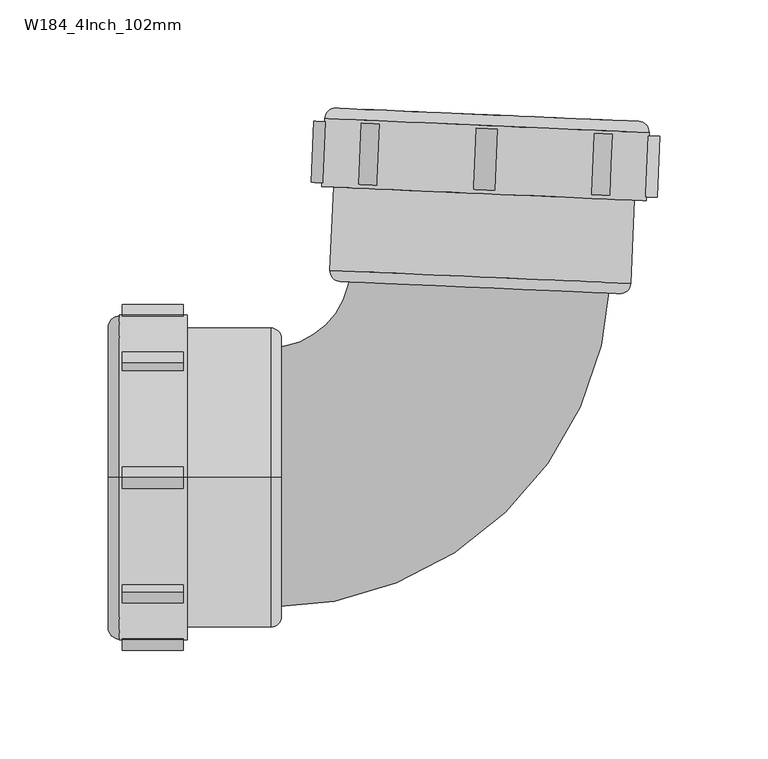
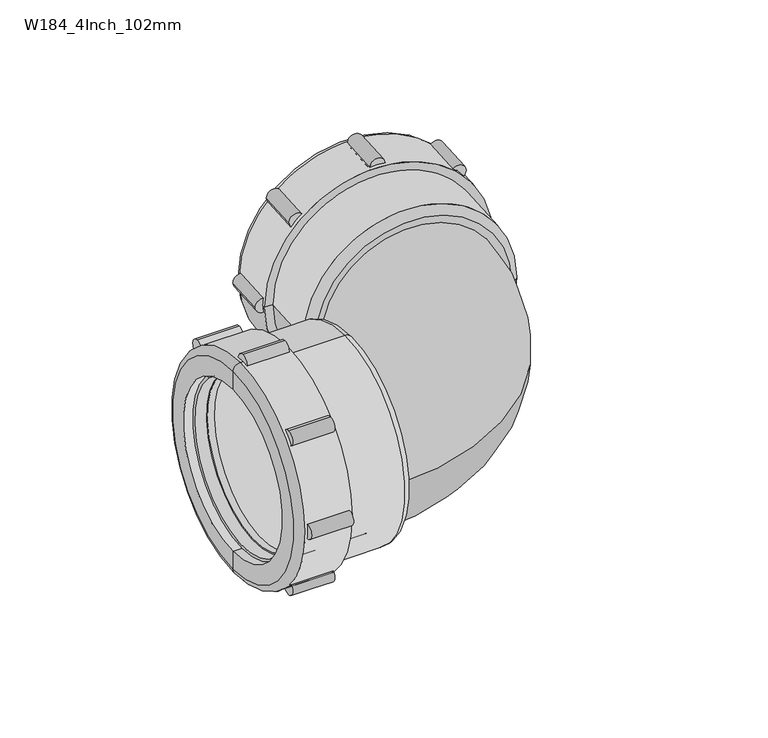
"""IFC4 building model written with IfcOpenShell, lengths in millimetres: pipe fitting geometry, Durapipe_PipeFitting_VulcatheneMechanical_92.5SweepBend_W18 : W184_4Inch_102mm."""

from ifc_helpers import new_model, si_unit, point, frame, frame_2d, origin, place, context, project, spatial, polyline, circle_curve, ellipse_curve, trimmed, segment, composite_curve, outline, extrude, source, transform, mapped, element, save
from ifc_brep_helpers import plane_surface, cylinder_surface, revolved_surface, advanced_brep


def w184_4inch_102mm_223b9221(model_context):
    return source(origin(), model_context, "Body", "SolidModel", [
        advanced_brep(
        [(-38.3071355, 163.3580885, 45.3962554), (52.3989608, 159.3977748, -45.3962554), (46.3942738, 159.6599451, -39.3858477), (-32.3024485, 163.0959182, 39.3858477), (-35.8671561, 141.4307882, 42.0021428), (48.0571761, 137.7665727, -42.0021428), (-37.4767114, 104.5659088, 42.0021428), (46.4476207, 100.9016933, -42.0021428), (-35.8519138, 104.4949686, 40.3757972), (44.822823, 100.9726335, -40.3757972), (-33.845422, 150.4511868, 40.3757972), (46.8293148, 146.9288517, -40.3757972), (-32.361911, 150.3864153, 38.890873), (45.3458039, 146.9936232, -38.890873), (-32.6601274, 154.9037228, 39.3858477), (46.0365948, 151.4677497, -39.3858477), (45.5420912, 151.4893402, -38.890873), (-32.1656238, 154.8821323, 38.890873)],
        [
            (0, 1, circle_curve(frame((7.0459127, 161.3779317, 0.0), z_axis=(0.043619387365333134, 0.9990482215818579, 0.0), x_axis=(0.7064337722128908, -0.030843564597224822, -0.7071067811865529)), 64.2)),
            (1, 2),
            (2, 3, circle_curve(frame((7.0459127, 161.3779317, 0.0), z_axis=(-0.043619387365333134, -0.9990482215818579, 0.0), x_axis=(0.7064337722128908, -0.030843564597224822, -0.7071067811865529)), 55.7)),
            (3, 0),
            (1, 0, circle_curve(frame((7.0459127, 161.3779317, 0.0), z_axis=(0.043619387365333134, 0.9990482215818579, 0.0), x_axis=(0.7064337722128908, -0.030843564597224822, -0.7071067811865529)), 64.2)),
            (3, 2, circle_curve(frame((7.0459127, 161.3779317, 0.0), z_axis=(-0.043619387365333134, -0.9990482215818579, 0.0), x_axis=(0.7064337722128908, -0.030843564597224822, -0.7071067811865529)), 55.7)),
            (0, 4),
            (4, 5, circle_curve(frame((6.09501, 139.5986805, 0.0), z_axis=(0.043619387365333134, 0.9990482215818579, 0.0), x_axis=(0.7064337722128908, -0.030843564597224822, -0.7071067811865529)), 59.4)),
            (5, 1),
            (5, 4, circle_curve(frame((6.09501, 139.5986805, 0.0), z_axis=(0.043619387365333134, 0.9990482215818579, 0.0), x_axis=(0.7064337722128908, -0.030843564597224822, -0.7071067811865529)), 59.4)),
            (6, 7, circle_curve(frame((4.4854546, 102.7338011, 0.0), z_axis=(0.043619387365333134, 0.9990482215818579, 0.0), x_axis=(0.7064337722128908, -0.030843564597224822, -0.7071067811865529)), 59.4)),
            (7, 5),
            (4, 6),
            (7, 6, circle_curve(frame((4.4854546, 102.7338011, 0.0), z_axis=(0.043619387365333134, 0.9990482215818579, 0.0), x_axis=(0.7064337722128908, -0.030843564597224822, -0.7071067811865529)), 59.4)),
            (6, 8),
            (8, 9, circle_curve(frame((4.4854546, 102.7338011, 0.0), z_axis=(0.043619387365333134, 0.9990482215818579, 0.0), x_axis=(0.7064337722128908, -0.030843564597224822, -0.7071067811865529)), 57.1)),
            (9, 7),
            (9, 8, circle_curve(frame((4.4854546, 102.7338011, 0.0), z_axis=(0.043619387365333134, 0.9990482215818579, 0.0), x_axis=(0.7064337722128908, -0.030843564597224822, -0.7071067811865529)), 57.1)),
            (8, 10),
            (10, 11, circle_curve(frame((6.4919464, 148.6900193, 0.0), z_axis=(0.043619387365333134, 0.9990482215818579, 0.0), x_axis=(0.7064337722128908, -0.030843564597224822, -0.7071067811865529)), 57.1)),
            (11, 9),
            (11, 10, circle_curve(frame((6.4919464, 148.6900193, 0.0), z_axis=(0.043619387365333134, 0.9990482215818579, 0.0), x_axis=(0.7064337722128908, -0.030843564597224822, -0.7071067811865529)), 57.1)),
            (10, 12),
            (12, 13, circle_curve(frame((6.4919464, 148.6900193, 0.0), z_axis=(0.043619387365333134, 0.9990482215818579, 0.0), x_axis=(0.7064337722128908, -0.030843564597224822, -0.7071067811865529)), 55.0)),
            (13, 11),
            (13, 12, circle_curve(frame((6.4919464, 148.6900193, 0.0), z_axis=(0.043619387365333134, 0.9990482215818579, 0.0), x_axis=(0.7064337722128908, -0.030843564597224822, -0.7071067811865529)), 55.0)),
            (14, 15, circle_curve(frame((6.6882337, 153.1857363, 0.0), z_axis=(0.043619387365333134, 0.9990482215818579, 0.0), x_axis=(0.7064337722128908, -0.030843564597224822, -0.7071067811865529)), 55.7)),
            (15, 16),
            (16, 17, circle_curve(frame((6.6882337, 153.1857363, 0.0), z_axis=(-0.043619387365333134, -0.9990482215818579, 0.0), x_axis=(0.7064337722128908, -0.030843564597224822, -0.7071067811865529)), 55.0)),
            (17, 14),
            (15, 14, circle_curve(frame((6.6882337, 153.1857363, 0.0), z_axis=(0.043619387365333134, 0.9990482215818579, 0.0), x_axis=(0.7064337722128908, -0.030843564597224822, -0.7071067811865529)), 55.7)),
            (17, 16, circle_curve(frame((6.6882337, 153.1857363, 0.0), z_axis=(-0.043619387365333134, -0.9990482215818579, 0.0), x_axis=(0.7064337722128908, -0.030843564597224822, -0.7071067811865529)), 55.0)),
            (2, 15),
            (14, 3),
            (12, 17),
            (16, 13),
        ],
        [
            plane_surface(frame((7.0459127, 161.3779317, 0.0), z_axis=(0.043619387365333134, 0.9990482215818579, 0.0), x_axis=(0.7064337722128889, -0.03084356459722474, -0.707106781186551))),
            revolved_surface(polyline([(52.3989608, 159.3977748, -45.3962554), (48.0571761, 137.7665727, -42.0021428)]), (7.2640096, 166.3731728, 0.0), (-0.04361938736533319, -0.9990482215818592, 0.0)),
            cylinder_surface(frame((4.3951339, 100.6651162, 0.0), z_axis=(-0.04361938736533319, -0.9990482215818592, 0.0), x_axis=(0.7064337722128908, -0.030843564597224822, -0.7071067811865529)), 59.4),
            plane_surface(frame((4.4854546, 102.7338011, 0.0), z_axis=(-0.043619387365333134, -0.9990482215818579, 0.0), x_axis=(0.7064337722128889, -0.03084356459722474, -0.707106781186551))),
            revolved_surface(polyline([(44.82282301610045, 100.97263349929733, -40.37579720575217), (46.82931483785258, 146.92885175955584, -40.37579720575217)]), (4.3330925, 99.2441347, 0.0), (-0.04361938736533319, -0.9990482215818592, 0.0)),
            plane_surface(frame((6.4919464, 148.6900193, 0.0), z_axis=(-0.043619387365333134, -0.9990482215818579, 0.0), x_axis=(0.7064337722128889, -0.03084356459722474, -0.707106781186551))),
            plane_surface(frame((6.6882337, 153.1857363, 0.0), z_axis=(0.043619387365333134, 0.9990482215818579, 0.0), x_axis=(0.7064337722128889, -0.03084356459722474, -0.707106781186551))),
            revolved_surface(polyline([(46.03659479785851, 151.46774970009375, -39.385847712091), (46.394273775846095, 159.65994515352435, -39.385847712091)]), (7.2640096, 166.3731728, 0.0), (-0.04361938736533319, -0.9990482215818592, 0.0)),
            revolved_surface(polyline([(45.34580389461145, 146.9936231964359, -38.89087296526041), (45.542091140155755, 151.48934024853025, -38.89087296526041)]), (7.114229, 162.9426335, 0.0), (-0.04361938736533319, -0.9990482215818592, 0.0)),
        ],
        [
            (0, [[1, 2, 3, 4]]),
            (0, [[-2, 5, -4, 6]]),
            (1, [[-1, 7, 8, 9]]),
            (1, [[-5, -9, 10, -7]]),
            (2, [[11, 12, -8, 13]]),
            (2, [[-12, 14, -13, -10]]),
            (3, [[-11, 15, 16, 17]]),
            (3, [[-14, -17, 18, -15]]),
            (4, [[19, 20, 21, -16]]),
            (4, [[-19, -18, -21, 22]]),
            (5, [[-20, 23, 24, 25]]),
            (5, [[-22, -25, 26, -23]]),
            (6, [[27, 28, 29, 30]]),
            (6, [[31, -30, 32, -28]]),
            (7, [[-3, 33, -27, 34]]),
            (7, [[-6, -34, -31, -33]]),
            (8, [[35, -29, 36, -24]]),
            (8, [[-35, -26, -36, -32]]),
        ],
    ),
        advanced_brep(
        [(-69.2000095, 134.4781294, 0.0), (80.6572238, 127.9352213, 0.0), (82.0312345, 159.4052403, 0.0), (-67.8259988, 165.9481484, 0.0), (-63.7052442, 134.2382228, 0.0), (75.1624586, 128.175128, 0.0), (-62.6126607, 170.7252926, 0.0), (77.2540903, 164.6185784, 0.0), (64.7659875, 165.1638207, 0.0), (-50.1245579, 170.1800503, 0.0), (-58.89127, 164.2568112, 0.0), (72.9830953, 158.4990521, 0.0), (70.012615, 90.4638682, 0.0), (-61.8617502, 96.2216274, 0.0), (-50.3993601, 163.8860465, 0.0), (64.4911854, 158.8698169, 0.0), (-65.3845907, 95.7748663, 0.0), (73.4831121, 89.7117714, 0.0), (-60.6074465, 90.5615282, 0.0), (68.2697741, 84.9346273, 0.0), (3.8311638, 87.7480778, 0.0), (4.0754324, 93.3427478, 0.0)],
        [
            (0, 1, circle_curve(frame((5.7286072, 131.2066754, 0.0), z_axis=(0.0436193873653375, 0.9990482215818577, 0.0), x_axis=(0.9990482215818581, -0.04361938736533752, 0.0)), 75.0)),
            (1, 2),
            (2, 3, circle_curve(frame((7.1026179, 162.6766944, 0.0), z_axis=(-0.0436193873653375, -0.9990482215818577, 0.0), x_axis=(0.9990482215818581, -0.04361938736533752, 0.0)), 75.0)),
            (3, 0),
            (1, 0, circle_curve(frame((5.7286072, 131.2066754, 0.0), z_axis=(0.0436193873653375, 0.9990482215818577, 0.0), x_axis=(0.9990482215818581, -0.04361938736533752, 0.0)), 75.0)),
            (3, 2, circle_curve(frame((7.1026179, 162.6766944, 0.0), z_axis=(-0.0436193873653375, -0.9990482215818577, 0.0), x_axis=(0.9990482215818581, -0.04361938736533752, 0.0)), 75.0)),
            (4, 5, circle_curve(frame((5.7286072, 131.2066754, 0.0), z_axis=(0.0436193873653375, 0.9990482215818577, 0.0), x_axis=(0.9990482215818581, -0.04361938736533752, 0.0)), 69.5)),
            (5, 1),
            (0, 4),
            (5, 4, circle_curve(frame((5.7286072, 131.2066754, 0.0), z_axis=(0.0436193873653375, 0.9990482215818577, 0.0), x_axis=(0.9990482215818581, -0.04361938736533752, 0.0)), 69.5)),
            (6, 7, circle_curve(frame((7.3207148, 167.6719355, 0.0), z_axis=(0.0436193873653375, 0.9990482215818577, 0.0), x_axis=(0.9990482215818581, -0.04361938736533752, 0.0)), 70.0)),
            (7, 8),
            (8, 9, circle_curve(frame((7.3207148, 167.6719355, 0.0), z_axis=(-0.0436193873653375, -0.9990482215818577, 0.0), x_axis=(0.9990482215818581, -0.04361938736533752, 0.0)), 57.5)),
            (9, 6),
            (7, 6, circle_curve(frame((7.3207148, 167.6719355, 0.0), z_axis=(0.0436193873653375, 0.9990482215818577, 0.0), x_axis=(0.9990482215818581, -0.04361938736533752, 0.0)), 70.0)),
            (9, 8, circle_curve(frame((7.3207148, 167.6719355, 0.0), z_axis=(-0.0436193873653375, -0.9990482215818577, 0.0), x_axis=(0.9990482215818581, -0.04361938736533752, 0.0)), 57.5)),
            (2, 7, circle_curve(frame((77.0359934, 159.6233373, 0.0), z_axis=(0.0, 0.0, 1.0000000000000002), x_axis=(0.043619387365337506, 0.9990482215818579, 0.0)), 5.0)),
            (6, 3, circle_curve(frame((-62.8307576, 165.7300515, 0.0), z_axis=(0.0, 0.0, 1.0000000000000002), x_axis=(0.043619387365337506, 0.9990482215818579, 0.0)), 5.0)),
            (10, 11, circle_curve(frame((7.0459127, 161.3779317, 0.0), z_axis=(0.0436193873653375, 0.9990482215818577, 0.0), x_axis=(0.9990482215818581, -0.04361938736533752, 0.0)), 66.0)),
            (11, 12),
            (12, 13, circle_curve(frame((4.0754324, 93.3427478, 0.0), z_axis=(-0.0436193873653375, -0.9990482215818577, 0.0), x_axis=(0.9990482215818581, -0.04361938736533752, 0.0)), 66.0)),
            (13, 10),
            (11, 10, circle_curve(frame((7.0459127, 161.3779317, 0.0), z_axis=(0.0436193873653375, 0.9990482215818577, 0.0), x_axis=(0.9990482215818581, -0.04361938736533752, 0.0)), 66.0)),
            (13, 12, circle_curve(frame((4.0754324, 93.3427478, 0.0), z_axis=(-0.0436193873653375, -0.9990482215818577, 0.0), x_axis=(0.9990482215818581, -0.04361938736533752, 0.0)), 66.0)),
            (14, 15, circle_curve(frame((7.0459127, 161.3779317, 0.0), z_axis=(0.0436193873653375, 0.9990482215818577, 0.0), x_axis=(0.9990482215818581, -0.04361938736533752, 0.0)), 57.5)),
            (15, 11),
            (10, 14),
            (15, 14, circle_curve(frame((7.0459127, 161.3779317, 0.0), z_axis=(0.0436193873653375, 0.9990482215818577, 0.0), x_axis=(0.9990482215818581, -0.04361938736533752, 0.0)), 57.5)),
            (8, 15),
            (14, 9),
            (16, 17, circle_curve(frame((4.0492607, 92.7433189, 0.0), z_axis=(0.0436193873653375, 0.9990482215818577, 0.0), x_axis=(0.9990482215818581, -0.04361938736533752, 0.0)), 69.5)),
            (17, 5),
            (4, 16),
            (17, 16, circle_curve(frame((4.0492607, 92.7433189, 0.0), z_axis=(0.0436193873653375, 0.9990482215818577, 0.0), x_axis=(0.9990482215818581, -0.04361938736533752, 0.0)), 69.5)),
            (18, 19, circle_curve(frame((3.8311638, 87.7480778, 0.0), z_axis=(0.0436193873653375, 0.9990482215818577, 0.0), x_axis=(0.9990482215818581, -0.04361938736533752, 0.0)), 64.5)),
            (19, 17, circle_curve(frame((68.487871, 89.9298684, 0.0), z_axis=(0.0, 0.0, 1.0000000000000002), x_axis=(0.043619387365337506, 0.9990482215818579, 0.0)), 5.0)),
            (16, 18, circle_curve(frame((-60.3893495, 95.5567693, 0.0), z_axis=(0.0, 0.0, 1.0000000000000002), x_axis=(0.043619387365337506, 0.9990482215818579, 0.0)), 5.0)),
            (19, 18, circle_curve(frame((3.8311638, 87.7480778, 0.0), z_axis=(0.0436193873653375, 0.9990482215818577, 0.0), x_axis=(0.9990482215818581, -0.04361938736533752, 0.0)), 64.5)),
            (20, 19),
            (18, 20),
            (12, 21),
            (21, 13),
        ],
        [
            cylinder_surface(frame((75.4019339, 1726.9882164, 0.0), z_axis=(-0.043619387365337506, -0.9990482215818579, 0.0), x_axis=(0.9990482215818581, -0.04361938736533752, 0.0)), 75.0),
            plane_surface(frame((5.7286072, 131.2066754, 0.0), z_axis=(-0.0436193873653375, -0.9990482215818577, 0.0), x_axis=(0.9990482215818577, -0.0436193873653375, 0.0))),
            plane_surface(frame((7.3207148, 167.6719355, 0.0), z_axis=(0.0436193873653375, 0.9990482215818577, 0.0), x_axis=(0.9990482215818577, -0.0436193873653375, 0.0))),
            revolved_surface(trimmed(ellipse_curve(frame((77.0359934, 159.6233373, 0.0), z_axis=(0.0, 0.0, -1.0000000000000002), x_axis=(0.043619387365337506, 0.9990482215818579, 0.0)), 5.0, 5.0), [point((77.2540903, 164.6185784, 0.0))], [point((82.0312345, 159.4052403, 0.0))], True, "CARTESIAN"), (75.4019339, 1726.9882164, 0.0), (-0.043619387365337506, -0.9990482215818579, 0.0)),
            revolved_surface(polyline([(70.0126149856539, 90.46386820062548, 0.0), (72.98309526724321, 158.49905213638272, 0.0)]), (75.4019339, 1726.9882164, 0.0), (-0.043619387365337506, -0.9990482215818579, 0.0)),
            plane_surface(frame((7.0459127, 161.3779317, 0.0), z_axis=(-0.0436193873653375, -0.9990482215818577, 0.0), x_axis=(0.9990482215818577, -0.0436193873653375, 0.0))),
            revolved_surface(polyline([(64.49118538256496, 158.8698169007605, 0.0), (64.7659875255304, 165.1638207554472, 0.0)]), (75.4019339, 1726.9882164, 0.0), (-0.043619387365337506, -0.9990482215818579, 0.0)),
            cylinder_surface(frame((75.4019339, 1726.9882164, 0.0), z_axis=(-0.043619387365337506, -0.9990482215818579, 0.0), x_axis=(0.9990482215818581, -0.04361938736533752, 0.0)), 69.5),
            revolved_surface(trimmed(ellipse_curve(frame((68.487871, 89.9298684, 0.0), z_axis=(0.0, 0.0, -1.0000000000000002), x_axis=(0.043619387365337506, 0.9990482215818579, 0.0)), 5.0, 5.0), [point((73.4831121, 89.7117714, 0.0))], [point((68.2697741, 84.9346273, 0.0))], True, "CARTESIAN"), (75.4019339, 1726.9882164, 0.0), (-0.043619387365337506, -0.9990482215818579, 0.0)),
            plane_surface(frame((3.8311638, 87.7480778, 0.0), z_axis=(-0.0436193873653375, -0.9990482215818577, 0.0), x_axis=(0.9990482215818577, -0.0436193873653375, 0.0))),
            plane_surface(frame((4.0754324, 93.3427478, 0.0), z_axis=(0.0436193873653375, 0.9990482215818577, 0.0), x_axis=(0.9990482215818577, -0.0436193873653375, 0.0))),
        ],
        [
            (0, [[1, 2, 3, 4]]),
            (0, [[5, -4, 6, -2]]),
            (1, [[7, 8, -1, 9]]),
            (1, [[10, -9, -5, -8]]),
            (2, [[11, 12, 13, 14]]),
            (2, [[15, -14, 16, -12]]),
            (3, [[-3, 17, -11, 18]]),
            (3, [[-6, -18, -15, -17]]),
            (4, [[19, 20, 21, 22]]),
            (4, [[23, -22, 24, -20]]),
            (5, [[25, 26, -19, 27]]),
            (5, [[28, -27, -23, -26]]),
            (6, [[-13, 29, -25, 30]]),
            (6, [[-16, -30, -28, -29]]),
            (7, [[31, 32, -7, 33]]),
            (7, [[34, -33, -10, -32]]),
            (8, [[35, 36, -31, 37]]),
            (8, [[38, -37, -34, -36]]),
            (9, [[39, -35, 40]]),
            (9, [[-40, -38, -39]]),
            (10, [[-21, 41, 42]]),
            (10, [[-24, -42, -41]]),
        ],
    ),
        extrude(outline(composite_curve([segment(trimmed(circle_curve(frame_2d((0.0, -5.0)), 5.0), [point((0.0, -10.0))], [point((0.0, 0.0))], False, "CARTESIAN"), True, "CONTINUOUS"), segment(trimmed(circle_curve(frame_2d((0.0, -5.0)), 5.0), [point((0.0, 0.0))], [point((0.0, -10.0))], False, "CARTESIAN"), True, "CONTINUOUS")], self_intersect=False)), frame((10.8023632, 132.7868653, -75.0), z_axis=(0.0436193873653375, 0.9990482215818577, 0.0), x_axis=(0.0, 0.0, 1.0)), (0.0, 0.0, 1.0), 28.2),
        extrude(outline(composite_curve([segment(trimmed(circle_curve(frame_2d((21.9669914, 48.0330086)), 5.0), [point((21.9669914, 43.0330086))], [point((21.9669914, 53.0330086))], False, "CARTESIAN"), True, "CONTINUOUS"), segment(trimmed(circle_curve(frame_2d((21.9669914, 48.0330086)), 5.0), [point((21.9669914, 53.0330086))], [point((21.9669914, 43.0330086))], False, "CARTESIAN"), True, "CONTINUOUS")], self_intersect=False)), frame((10.8023632, 132.7868653, -75.0), z_axis=(0.0436193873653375, 0.9990482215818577, 0.0), x_axis=(0.0, 0.0, 1.0)), (0.0, 0.0, 1.0), 28.2),
        extrude(outline(composite_curve([segment(trimmed(circle_curve(frame_2d((75.0, 70.0)), 5.0), [point((75.0, 65.0))], [point((75.0, 75.0))], False, "CARTESIAN"), True, "CONTINUOUS"), segment(trimmed(circle_curve(frame_2d((75.0, 70.0)), 5.0), [point((75.0, 75.0))], [point((75.0, 65.0))], False, "CARTESIAN"), True, "CONTINUOUS")], self_intersect=False)), frame((10.8023632, 132.7868653, -75.0), z_axis=(0.0436193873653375, 0.9990482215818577, 0.0), x_axis=(0.0, 0.0, 1.0)), (0.0, 0.0, 1.0), 28.2),
        extrude(outline(composite_curve([segment(trimmed(circle_curve(frame_2d((128.0330086, 48.0330086)), 5.0), [point((128.0330086, 43.0330086))], [point((128.0330086, 53.0330086))], False, "CARTESIAN"), True, "CONTINUOUS"), segment(trimmed(circle_curve(frame_2d((128.0330086, 48.0330086)), 5.0), [point((128.0330086, 53.0330086))], [point((128.0330086, 43.0330086))], False, "CARTESIAN"), True, "CONTINUOUS")], self_intersect=False)), frame((10.8023632, 132.7868653, -75.0), z_axis=(0.0436193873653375, 0.9990482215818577, 0.0), x_axis=(0.0, 0.0, 1.0)), (0.0, 0.0, 1.0), 28.2),
        extrude(outline(composite_curve([segment(trimmed(circle_curve(frame_2d((150.0, -5.0)), 5.0), [point((150.0, -10.0))], [point((150.0, 0.0))], False, "CARTESIAN"), True, "CONTINUOUS"), segment(trimmed(circle_curve(frame_2d((150.0, -5.0)), 5.0), [point((150.0, 0.0))], [point((150.0, -10.0))], False, "CARTESIAN"), True, "CONTINUOUS")], self_intersect=False)), frame((10.8023632, 132.7868653, -75.0), z_axis=(0.0436193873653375, 0.9990482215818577, 0.0), x_axis=(0.0, 0.0, 1.0)), (0.0, 0.0, 1.0), 28.2),
        extrude(outline(composite_curve([segment(trimmed(circle_curve(frame_2d((128.0330086, -58.0330087)), 5.0), [point((128.0330086, -63.0330087))], [point((128.0330086, -53.0330086))], False, "CARTESIAN"), True, "CONTINUOUS"), segment(trimmed(circle_curve(frame_2d((128.0330086, -58.0330087)), 5.0), [point((128.0330086, -53.0330086))], [point((128.0330086, -63.0330087))], False, "CARTESIAN"), True, "CONTINUOUS")], self_intersect=False)), frame((10.8023632, 132.7868653, -75.0), z_axis=(0.0436193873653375, 0.9990482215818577, 0.0), x_axis=(0.0, 0.0, 1.0)), (0.0, 0.0, 1.0), 28.2),
        extrude(outline(composite_curve([segment(trimmed(circle_curve(frame_2d((75.0, -80.0000001)), 5.0), [point((75.0, -85.0000001))], [point((75.0, -75.0))], False, "CARTESIAN"), True, "CONTINUOUS"), segment(trimmed(circle_curve(frame_2d((75.0, -80.0000001)), 5.0), [point((75.0, -75.0))], [point((75.0, -85.0000001))], False, "CARTESIAN"), True, "CONTINUOUS")], self_intersect=False)), frame((10.8023632, 132.7868653, -75.0), z_axis=(0.0436193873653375, 0.9990482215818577, 0.0), x_axis=(0.0, 0.0, 1.0)), (0.0, 0.0, 1.0), 28.2),
        extrude(outline(composite_curve([segment(trimmed(circle_curve(frame_2d((21.9669914, -58.0330087)), 5.0), [point((21.9669914, -63.0330087))], [point((21.9669914, -53.0330086))], False, "CARTESIAN"), True, "CONTINUOUS"), segment(trimmed(circle_curve(frame_2d((21.9669914, -58.0330087)), 5.0), [point((21.9669914, -53.0330086))], [point((21.9669914, -63.0330087))], False, "CARTESIAN"), True, "CONTINUOUS")], self_intersect=False)), frame((10.8023632, 132.7868653, -75.0), z_axis=(0.0436193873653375, 0.9990482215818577, 0.0), x_axis=(0.0, 0.0, 1.0)), (0.0, 0.0, 1.0), 28.2),
        advanced_brep(
        [(-161.531674, -45.3962554, -45.3962554), (-161.531674, 45.3962554, 45.3962554), (-161.531674, 39.3858477, 39.3858477), (-161.531674, -39.3858477, -39.3858477), (-139.731674, -42.0021428, -42.0021428), (-139.731674, 42.0021428, 42.0021428), (-102.831674, -42.0021428, -42.0021428), (-102.831674, 42.0021428, 42.0021428), (-102.831674, -40.3757972, -40.3757972), (-102.831674, 40.3757972, 40.3757972), (-148.831674, -40.3757972, -40.3757972), (-148.831674, 40.3757972, 40.3757972), (-148.831674, -38.890873, -38.890873), (-148.831674, 38.890873, 38.890873), (-153.331674, -39.3858477, -39.3858477), (-153.331674, 39.3858477, 39.3858477), (-153.331674, 38.890873, 38.890873), (-153.331674, -38.890873, -38.890873)],
        [
            (0, 1, circle_curve(frame((-161.531674, 0.0, 0.0), z_axis=(-1.0, 0.0, 0.0), x_axis=(0.0, 0.7071067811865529, 0.7071067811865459)), 64.2)),
            (1, 2),
            (2, 3, circle_curve(frame((-161.531674, 0.0, 0.0), z_axis=(1.0, 0.0, 0.0), x_axis=(0.0, 0.7071067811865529, 0.7071067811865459)), 55.7)),
            (3, 0),
            (1, 0, circle_curve(frame((-161.531674, 0.0, 0.0), z_axis=(-1.0, 0.0, 0.0), x_axis=(0.0, 0.7071067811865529, 0.7071067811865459)), 64.2)),
            (3, 2, circle_curve(frame((-161.531674, 0.0, 0.0), z_axis=(1.0, 0.0, 0.0), x_axis=(0.0, 0.7071067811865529, 0.7071067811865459)), 55.7)),
            (0, 4),
            (4, 5, circle_curve(frame((-139.731674, 0.0, 0.0), z_axis=(-1.0, 0.0, 0.0), x_axis=(0.0, 0.7071067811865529, 0.7071067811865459)), 59.4)),
            (5, 1),
            (5, 4, circle_curve(frame((-139.731674, 0.0, 0.0), z_axis=(-1.0, 0.0, 0.0), x_axis=(0.0, 0.7071067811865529, 0.7071067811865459)), 59.4)),
            (6, 7, circle_curve(frame((-102.831674, 0.0, 0.0), z_axis=(-1.0, 0.0, 0.0), x_axis=(0.0, 0.7071067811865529, 0.7071067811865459)), 59.4)),
            (7, 5),
            (4, 6),
            (7, 6, circle_curve(frame((-102.831674, 0.0, 0.0), z_axis=(-1.0, 0.0, 0.0), x_axis=(0.0, 0.7071067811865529, 0.7071067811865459)), 59.4)),
            (6, 8),
            (8, 9, circle_curve(frame((-102.831674, 0.0, 0.0), z_axis=(-1.0, 0.0, 0.0), x_axis=(0.0, 0.7071067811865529, 0.7071067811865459)), 57.1)),
            (9, 7),
            (9, 8, circle_curve(frame((-102.831674, 0.0, 0.0), z_axis=(-1.0, 0.0, 0.0), x_axis=(0.0, 0.7071067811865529, 0.7071067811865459)), 57.1)),
            (8, 10),
            (10, 11, circle_curve(frame((-148.831674, 0.0, 0.0), z_axis=(-1.0, 0.0, 0.0), x_axis=(0.0, 0.7071067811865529, 0.7071067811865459)), 57.1)),
            (11, 9),
            (11, 10, circle_curve(frame((-148.831674, 0.0, 0.0), z_axis=(-1.0, 0.0, 0.0), x_axis=(0.0, 0.7071067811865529, 0.7071067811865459)), 57.1)),
            (10, 12),
            (12, 13, circle_curve(frame((-148.831674, 0.0, 0.0), z_axis=(-1.0, 0.0, 0.0), x_axis=(0.0, 0.7071067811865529, 0.7071067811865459)), 55.0)),
            (13, 11),
            (13, 12, circle_curve(frame((-148.831674, 0.0, 0.0), z_axis=(-1.0, 0.0, 0.0), x_axis=(0.0, 0.7071067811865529, 0.7071067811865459)), 55.0)),
            (14, 15, circle_curve(frame((-153.331674, 0.0, 0.0), z_axis=(-1.0, 0.0, 0.0), x_axis=(0.0, 0.7071067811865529, 0.7071067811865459)), 55.7)),
            (15, 16),
            (16, 17, circle_curve(frame((-153.331674, 0.0, 0.0), z_axis=(1.0, 0.0, 0.0), x_axis=(0.0, 0.7071067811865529, 0.7071067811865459)), 55.0)),
            (17, 14),
            (15, 14, circle_curve(frame((-153.331674, 0.0, 0.0), z_axis=(-1.0, 0.0, 0.0), x_axis=(0.0, 0.7071067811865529, 0.7071067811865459)), 55.7)),
            (17, 16, circle_curve(frame((-153.331674, 0.0, 0.0), z_axis=(1.0, 0.0, 0.0), x_axis=(0.0, 0.7071067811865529, 0.7071067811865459)), 55.0)),
            (2, 15),
            (14, 3),
            (12, 17),
            (16, 13),
        ],
        [
            plane_surface(frame((-161.531674, 0.0, 0.0), z_axis=(-1.0, 0.0, 0.0), x_axis=(0.0, 0.707106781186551, 0.707106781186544))),
            revolved_surface(polyline([(-161.531674, 45.3962554, 45.3962554), (-139.731674, 42.0021428, 42.0021428)]), (-166.531674, 0.0, 0.0), (1.0000000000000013, 0.0, 0.0)),
            cylinder_surface(frame((-100.7610183, 0.0, 0.0), z_axis=(1.0000000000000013, 0.0, 0.0), x_axis=(0.0, 0.7071067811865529, 0.7071067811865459)), 59.4),
            plane_surface(frame((-102.831674, 0.0, 0.0), z_axis=(1.0, 0.0, 0.0), x_axis=(0.0, 0.707106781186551, 0.707106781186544))),
            revolved_surface(polyline([(-102.83167400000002, 40.37579720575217, 40.37579720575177), (-148.83167400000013, 40.37579720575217, 40.37579720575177)]), (-99.3386831, 0.0, 0.0), (1.0000000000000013, 0.0, 0.0)),
            plane_surface(frame((-148.831674, 0.0, 0.0), z_axis=(1.0, 0.0, 0.0), x_axis=(0.0, 0.707106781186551, 0.707106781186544))),
            plane_surface(frame((-153.331674, 0.0, 0.0), z_axis=(-1.0, 0.0, 0.0), x_axis=(0.0, 0.707106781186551, 0.707106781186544))),
            revolved_surface(polyline([(-153.33167399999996, 39.385847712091, 39.38584771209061), (-161.531674, 39.385847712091, 39.38584771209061)]), (-166.531674, 0.0, 0.0), (1.0000000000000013, 0.0, 0.0)),
            revolved_surface(polyline([(-148.83167399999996, 38.89087296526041, 38.89087296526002), (-153.33167399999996, 38.89087296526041, 38.89087296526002)]), (-163.0978665, 0.0, 0.0), (1.0000000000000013, 0.0, 0.0)),
        ],
        [
            (0, [[1, 2, 3, 4]]),
            (0, [[-2, 5, -4, 6]]),
            (1, [[-1, 7, 8, 9]]),
            (1, [[-5, -9, 10, -7]]),
            (2, [[11, 12, -8, 13]]),
            (2, [[-12, 14, -13, -10]]),
            (3, [[-11, 15, 16, 17]]),
            (3, [[-14, -17, 18, -15]]),
            (4, [[19, 20, 21, -16]]),
            (4, [[-19, -18, -21, 22]]),
            (5, [[-20, 23, 24, 25]]),
            (5, [[-22, -25, 26, -23]]),
            (6, [[27, 28, 29, 30]]),
            (6, [[31, -30, 32, -28]]),
            (7, [[-3, 33, -27, 34]]),
            (7, [[-6, -34, -31, -33]]),
            (8, [[35, -29, 36, -24]]),
            (8, [[-35, -26, -36, -32]]),
        ],
    ),
        advanced_brep(
        [(-131.331674, 0.0, -75.0), (-131.331674, 0.0, 75.0), (-162.831674, 0.0, 75.0), (-162.831674, 0.0, -75.0), (-131.331674, 0.0, -69.5), (-131.331674, 0.0, 69.5), (-167.831674, 0.0, -70.0), (-167.831674, 0.0, 70.0), (-167.831674, 0.0, 57.5), (-167.831674, 0.0, -57.5), (-161.531674, 0.0, -66.0), (-161.531674, 0.0, 66.0), (-93.431674, 0.0, 66.0), (-93.431674, 0.0, -66.0), (-161.531674, 0.0, -57.5), (-161.531674, 0.0, 57.5), (-92.831674, 0.0, -69.5), (-92.831674, 0.0, 69.5), (-87.831674, 0.0, -64.5), (-87.831674, 0.0, 64.5), (-87.831674, 0.0, 0.0), (-93.431674, 0.0, 0.0)],
        [
            (0, 1, circle_curve(frame((-131.331674, 0.0, 0.0), z_axis=(-1.0, 0.0, 0.0), x_axis=(0.0, 0.0, 1.0000000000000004)), 75.0)),
            (1, 2),
            (2, 3, circle_curve(frame((-162.831674, 0.0, 0.0), z_axis=(1.0, 0.0, 0.0), x_axis=(0.0, 0.0, 1.0000000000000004)), 75.0)),
            (3, 0),
            (1, 0, circle_curve(frame((-131.331674, 0.0, 0.0), z_axis=(-1.0, 0.0, 0.0), x_axis=(0.0, 0.0, 1.0000000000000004)), 75.0)),
            (3, 2, circle_curve(frame((-162.831674, 0.0, 0.0), z_axis=(1.0, 0.0, 0.0), x_axis=(0.0, 0.0, 1.0000000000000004)), 75.0)),
            (4, 5, circle_curve(frame((-131.331674, 0.0, 0.0), z_axis=(-1.0, 0.0, 0.0), x_axis=(0.0, 0.0, 1.0000000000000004)), 69.5)),
            (5, 1),
            (0, 4),
            (5, 4, circle_curve(frame((-131.331674, 0.0, 0.0), z_axis=(-1.0, 0.0, 0.0), x_axis=(0.0, 0.0, 1.0000000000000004)), 69.5)),
            (6, 7, circle_curve(frame((-167.831674, 0.0, 0.0), z_axis=(-1.0, 0.0, 0.0), x_axis=(0.0, 0.0, 1.0000000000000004)), 70.0)),
            (7, 8),
            (8, 9, circle_curve(frame((-167.831674, 0.0, 0.0), z_axis=(1.0, 0.0, 0.0), x_axis=(0.0, 0.0, 1.0000000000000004)), 57.5)),
            (9, 6),
            (7, 6, circle_curve(frame((-167.831674, 0.0, 0.0), z_axis=(-1.0, 0.0, 0.0), x_axis=(0.0, 0.0, 1.0000000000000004)), 70.0)),
            (9, 8, circle_curve(frame((-167.831674, 0.0, 0.0), z_axis=(1.0, 0.0, 0.0), x_axis=(0.0, 0.0, 1.0000000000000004)), 57.5)),
            (2, 7, circle_curve(frame((-162.831674, 0.0, 70.0), z_axis=(0.0, -1.0000000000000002, 0.0), x_axis=(-1.0000000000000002, 0.0, 0.0)), 5.0)),
            (6, 3, circle_curve(frame((-162.831674, 0.0, -70.0), z_axis=(0.0, -1.0000000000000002, 0.0), x_axis=(-1.0000000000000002, 0.0, 0.0)), 5.0)),
            (10, 11, circle_curve(frame((-161.531674, 0.0, 0.0), z_axis=(-1.0, 0.0, 0.0), x_axis=(0.0, 0.0, 1.0000000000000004)), 66.0)),
            (11, 12),
            (12, 13, circle_curve(frame((-93.431674, 0.0, 0.0), z_axis=(1.0, 0.0, 0.0), x_axis=(0.0, 0.0, 1.0000000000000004)), 66.0)),
            (13, 10),
            (11, 10, circle_curve(frame((-161.531674, 0.0, 0.0), z_axis=(-1.0, 0.0, 0.0), x_axis=(0.0, 0.0, 1.0000000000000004)), 66.0)),
            (13, 12, circle_curve(frame((-93.431674, 0.0, 0.0), z_axis=(1.0, 0.0, 0.0), x_axis=(0.0, 0.0, 1.0000000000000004)), 66.0)),
            (14, 15, circle_curve(frame((-161.531674, 0.0, 0.0), z_axis=(-1.0, 0.0, 0.0), x_axis=(0.0, 0.0, 1.0000000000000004)), 57.5)),
            (15, 11),
            (10, 14),
            (15, 14, circle_curve(frame((-161.531674, 0.0, 0.0), z_axis=(-1.0, 0.0, 0.0), x_axis=(0.0, 0.0, 1.0000000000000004)), 57.5)),
            (8, 15),
            (14, 9),
            (16, 17, circle_curve(frame((-92.831674, 0.0, 0.0), z_axis=(-1.0, 0.0, 0.0), x_axis=(0.0, 0.0, 1.0000000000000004)), 69.5)),
            (17, 5),
            (4, 16),
            (17, 16, circle_curve(frame((-92.831674, 0.0, 0.0), z_axis=(-1.0, 0.0, 0.0), x_axis=(0.0, 0.0, 1.0000000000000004)), 69.5)),
            (18, 19, circle_curve(frame((-87.831674, 0.0, 0.0), z_axis=(-1.0, 0.0, 0.0), x_axis=(0.0, 0.0, 1.0000000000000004)), 64.5)),
            (19, 17, circle_curve(frame((-92.831674, 0.0, 64.5), z_axis=(0.0, -1.0000000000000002, 0.0), x_axis=(-1.0000000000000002, 0.0, 0.0)), 5.0)),
            (16, 18, circle_curve(frame((-92.831674, 0.0, -64.5), z_axis=(0.0, -1.0000000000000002, 0.0), x_axis=(-1.0000000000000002, 0.0, 0.0)), 5.0)),
            (19, 18, circle_curve(frame((-87.831674, 0.0, 0.0), z_axis=(-1.0, 0.0, 0.0), x_axis=(0.0, 0.0, 1.0000000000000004)), 64.5)),
            (20, 19),
            (18, 20),
            (12, 21),
            (21, 13),
        ],
        [
            cylinder_surface(frame((-1728.6334924, 0.0, 0.0), z_axis=(1.0000000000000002, 0.0, 0.0), x_axis=(0.0, 0.0, 1.0000000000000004)), 75.0),
            plane_surface(frame((-131.331674, 0.0, 0.0), z_axis=(1.0, 0.0, 0.0), x_axis=(0.0, 0.0, 1.0))),
            plane_surface(frame((-167.831674, 0.0, 0.0), z_axis=(-1.0, 0.0, 0.0), x_axis=(0.0, 0.0, 1.0))),
            revolved_surface(trimmed(ellipse_curve(frame((-162.831674, 0.0, 70.0), z_axis=(0.0, 1.0000000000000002, 0.0), x_axis=(-1.0000000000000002, 0.0, 0.0)), 5.0, 5.0), [point((-167.831674, 0.0, 70.0))], [point((-162.831674, 0.0, 75.0))], True, "CARTESIAN"), (-1728.6334924, 0.0, 0.0), (1.0000000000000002, 0.0, 0.0)),
            revolved_surface(polyline([(-93.43167399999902, 0.0, 66.00000000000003), (-161.53167399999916, 0.0, 66.00000000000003)]), (-1728.6334924, 0.0, 0.0), (1.0000000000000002, 0.0, 0.0)),
            plane_surface(frame((-161.531674, 0.0, 0.0), z_axis=(1.0, 0.0, 0.0), x_axis=(0.0, 0.0, 1.0))),
            revolved_surface(polyline([(-161.53167399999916, 0.0, 57.50000000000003), (-167.8316739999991, 0.0, 57.50000000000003)]), (-1728.6334924, 0.0, 0.0), (1.0000000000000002, 0.0, 0.0)),
            cylinder_surface(frame((-1728.6334924, 0.0, 0.0), z_axis=(1.0000000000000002, 0.0, 0.0), x_axis=(0.0, 0.0, 1.0000000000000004)), 69.5),
            revolved_surface(trimmed(ellipse_curve(frame((-92.831674, 0.0, 64.5), z_axis=(0.0, 1.0000000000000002, 0.0), x_axis=(-1.0000000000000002, 0.0, 0.0)), 5.0, 5.0), [point((-92.831674, 0.0, 69.5))], [point((-87.831674, 0.0, 64.5))], True, "CARTESIAN"), (-1728.6334924, 0.0, 0.0), (1.0000000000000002, 0.0, 0.0)),
            plane_surface(frame((-87.831674, 0.0, 0.0), z_axis=(1.0, 0.0, 0.0), x_axis=(0.0, 0.0, 1.0))),
            plane_surface(frame((-93.431674, 0.0, 0.0), z_axis=(-1.0, 0.0, 0.0), x_axis=(0.0, 0.0, 1.0))),
        ],
        [
            (0, [[1, 2, 3, 4]]),
            (0, [[5, -4, 6, -2]]),
            (1, [[7, 8, -1, 9]]),
            (1, [[10, -9, -5, -8]]),
            (2, [[11, 12, 13, 14]]),
            (2, [[15, -14, 16, -12]]),
            (3, [[-3, 17, -11, 18]]),
            (3, [[-6, -18, -15, -17]]),
            (4, [[19, 20, 21, 22]]),
            (4, [[23, -22, 24, -20]]),
            (5, [[25, 26, -19, 27]]),
            (5, [[28, -27, -23, -26]]),
            (6, [[-13, 29, -25, 30]]),
            (6, [[-16, -30, -28, -29]]),
            (7, [[31, 32, -7, 33]]),
            (7, [[34, -33, -10, -32]]),
            (8, [[35, 36, -31, 37]]),
            (8, [[38, -37, -34, -36]]),
            (9, [[39, -35, 40]]),
            (9, [[-40, -38, -39]]),
            (10, [[-21, 41, 42]]),
            (10, [[-24, -42, -41]]),
        ],
    ),
        extrude(outline(composite_curve([segment(trimmed(circle_curve(frame_2d((75.0, 0.0)), 5.0), [point((75.0, -5.0))], [point((75.0, 5.0))], False, "CARTESIAN"), True, "CONTINUOUS"), segment(trimmed(circle_curve(frame_2d((75.0, 0.0)), 5.0), [point((75.0, 5.0))], [point((75.0, -5.0))], False, "CARTESIAN"), True, "CONTINUOUS")], self_intersect=False)), frame((-161.331674, 0.0, 0.0), z_axis=(1.0, 0.0, 0.0), x_axis=(0.0, 1.0, 0.0)), (0.0, 0.0, 1.0), 28.2),
        extrude(outline(composite_curve([segment(trimmed(circle_curve(frame_2d((53.0330086, 53.0330086)), 5.0), [point((53.0330086, 48.0330086))], [point((53.0330086, 58.0330086))], False, "CARTESIAN"), True, "CONTINUOUS"), segment(trimmed(circle_curve(frame_2d((53.0330086, 53.0330086)), 5.0), [point((53.0330086, 58.0330086))], [point((53.0330086, 48.0330086))], False, "CARTESIAN"), True, "CONTINUOUS")], self_intersect=False)), frame((-161.331674, 0.0, 0.0), z_axis=(1.0, 0.0, 0.0), x_axis=(0.0, 1.0, 0.0)), (0.0, 0.0, 1.0), 28.2),
        extrude(outline(composite_curve([segment(trimmed(circle_curve(frame_2d((0.0, 75.0)), 5.0), [point((0.0, 70.0))], [point((0.0, 80.0))], False, "CARTESIAN"), True, "CONTINUOUS"), segment(trimmed(circle_curve(frame_2d((0.0, 75.0)), 5.0), [point((0.0, 80.0))], [point((0.0, 70.0))], False, "CARTESIAN"), True, "CONTINUOUS")], self_intersect=False)), frame((-161.331674, 0.0, 0.0), z_axis=(1.0, 0.0, 0.0), x_axis=(0.0, 1.0, 0.0)), (0.0, 0.0, 1.0), 28.2),
        extrude(outline(composite_curve([segment(trimmed(circle_curve(frame_2d((-53.0330086, 53.0330086)), 5.0), [point((-53.0330086, 48.0330086))], [point((-53.0330086, 58.0330086))], False, "CARTESIAN"), True, "CONTINUOUS"), segment(trimmed(circle_curve(frame_2d((-53.0330086, 53.0330086)), 5.0), [point((-53.0330086, 58.0330086))], [point((-53.0330086, 48.0330086))], False, "CARTESIAN"), True, "CONTINUOUS")], self_intersect=False)), frame((-161.331674, 0.0, 0.0), z_axis=(1.0, 0.0, 0.0), x_axis=(0.0, 1.0, 0.0)), (0.0, 0.0, 1.0), 28.2),
        extrude(outline(composite_curve([segment(trimmed(circle_curve(frame_2d((-75.0, 0.0)), 5.0), [point((-75.0, -5.0))], [point((-75.0, 5.0))], False, "CARTESIAN"), True, "CONTINUOUS"), segment(trimmed(circle_curve(frame_2d((-75.0, 0.0)), 5.0), [point((-75.0, 5.0))], [point((-75.0, -5.0))], False, "CARTESIAN"), True, "CONTINUOUS")], self_intersect=False)), frame((-161.331674, 0.0, 0.0), z_axis=(1.0, 0.0, 0.0), x_axis=(0.0, 1.0, 0.0)), (0.0, 0.0, 1.0), 28.2),
        extrude(outline(composite_curve([segment(trimmed(circle_curve(frame_2d((-53.0330086, -53.0330086)), 5.0), [point((-53.0330086, -58.0330086))], [point((-53.0330086, -48.0330086))], False, "CARTESIAN"), True, "CONTINUOUS"), segment(trimmed(circle_curve(frame_2d((-53.0330086, -53.0330086)), 5.0), [point((-53.0330086, -48.0330086))], [point((-53.0330086, -58.0330086))], False, "CARTESIAN"), True, "CONTINUOUS")], self_intersect=False)), frame((-161.331674, 0.0, 0.0), z_axis=(1.0, 0.0, 0.0), x_axis=(0.0, 1.0, 0.0)), (0.0, 0.0, 1.0), 28.2),
        extrude(outline(composite_curve([segment(trimmed(circle_curve(frame_2d((0.0, -75.0)), 5.0), [point((0.0, -80.0))], [point((0.0, -70.0))], False, "CARTESIAN"), True, "CONTINUOUS"), segment(trimmed(circle_curve(frame_2d((0.0, -75.0)), 5.0), [point((0.0, -70.0))], [point((0.0, -80.0))], False, "CARTESIAN"), True, "CONTINUOUS")], self_intersect=False)), frame((-161.331674, 0.0, 0.0), z_axis=(1.0, 0.0, 0.0), x_axis=(0.0, 1.0, 0.0)), (0.0, 0.0, 1.0), 28.2),
        extrude(outline(composite_curve([segment(trimmed(circle_curve(frame_2d((53.0330086, -53.0330086)), 5.0), [point((53.0330086, -58.0330086))], [point((53.0330086, -48.0330086))], False, "CARTESIAN"), True, "CONTINUOUS"), segment(trimmed(circle_curve(frame_2d((53.0330086, -53.0330086)), 5.0), [point((53.0330086, -48.0330086))], [point((53.0330086, -58.0330086))], False, "CARTESIAN"), True, "CONTINUOUS")], self_intersect=False)), frame((-161.331674, 0.0, 0.0), z_axis=(1.0, 0.0, 0.0), x_axis=(0.0, 1.0, 0.0)), (0.0, 0.0, 1.0), 28.2),
        advanced_brep(
        [(-93.431674, -60.0, 0.0), (-93.431674, 60.0, 0.0), (64.0183257, 90.7255846, 0.0), (-55.8674609, 95.959911, 0.0)],
        [
            (0, 1, circle_curve(frame((-93.431674, 0.0, 0.0), z_axis=(-1.0, 0.0, 0.0), x_axis=(0.0, 1.0, 0.0)), 60.0)),
            (1, 0, circle_curve(frame((-93.431674, 0.0, 0.0), z_axis=(-1.0, 0.0, 0.0), x_axis=(0.0, 1.0, 0.0)), 60.0)),
            (2, 3, circle_curve(frame((4.0754324, 93.3427478, 0.0), z_axis=(0.0436193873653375, 0.9990482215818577, 0.0), x_axis=(-0.9990482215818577, 0.0436193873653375, 0.0)), 60.0)),
            (3, 2, circle_curve(frame((4.0754324, 93.3427478, 0.0), z_axis=(0.0436193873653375, 0.9990482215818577, 0.0), x_axis=(-0.9990482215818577, 0.0436193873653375, 0.0)), 60.0)),
            (3, 1, circle_curve(frame((-93.431674, 97.6, 0.0), z_axis=(0.0, 0.0, -1.0), x_axis=(0.0, -1.0, 0.0)), 37.6)),
            (0, 2, circle_curve(frame((-93.431674, 97.6, 0.0), z_axis=(0.0, 0.0, 1.0), x_axis=(0.0, -1.0, 0.0)), 157.6)),
        ],
        [
            plane_surface(frame((-93.431674, 0.0, 0.0), z_axis=(-1.0, 0.0, 0.0), x_axis=(0.0, 0.0, 1.0))),
            plane_surface(frame((4.0754324, 93.3427478, 0.0), z_axis=(0.0436193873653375, 0.9990482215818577, 0.0), x_axis=(0.0, 0.0, 1.0))),
            revolved_surface(trimmed(ellipse_curve(frame((-93.431674, 0.0, 0.0), z_axis=(-1.0, 0.0, 0.0), x_axis=(0.0, 1.0, 0.0)), 60.0, 60.0), [point((-93.431674, -60.0, 0.0))], [point((-93.431674, 60.0, 0.0))], True, "CARTESIAN"), (-93.431674, 97.6, 0.0), (0.0, 0.0, 1.0)),
            revolved_surface(trimmed(ellipse_curve(frame((-93.431674, 0.0, 0.0), z_axis=(-1.0, 0.0, 0.0), x_axis=(0.0, 1.0, 0.0)), 60.0, 60.0), [point((-93.431674, 60.0, 0.0))], [point((-93.431674, -60.0, 0.0))], True, "CARTESIAN"), (-93.431674, 97.6, 0.0), (0.0, 0.0, 1.0)),
        ],
        [
            (0, [[1, 2]]),
            (1, [[3, 4]]),
            (2, [[5, -1, 6, -4]]),
            (3, [[-6, -2, -5, -3]]),
        ],
    ),
    ])


if __name__ == "__main__":
    model = new_model("IFC4")
    model_context = context("Model", 3, world=origin())
    ifc_project = project(units=[si_unit("LENGTHUNIT", "METRE", prefix="MILLI")], contexts=[model_context])
    site = spatial("IfcSite", under=ifc_project)
    building = spatial("IfcBuilding", under=site)
    placement = place(None, origin())
    w184_4inch_102mm_shape = w184_4inch_102mm_223b9221(model_context)
    element("IfcPipeFitting", 1, ObjectType="Durapipe_PipeFitting_VulcatheneMechanical_92.5SweepBend_W18 : W184_4Inch_102mm", at=placement, inside=building, context=model_context, shape_type="MappedRepresentation", body=[
        mapped(w184_4inch_102mm_shape, transform((0.0, 0.0, 0.0), x_axis=(1.0, 0.0, 0.0), y_axis=(0.0, 1.0, 0.0), z_axis=(0.0, 0.0, 1.0))),
    ])
    save(model, "model.ifc")
